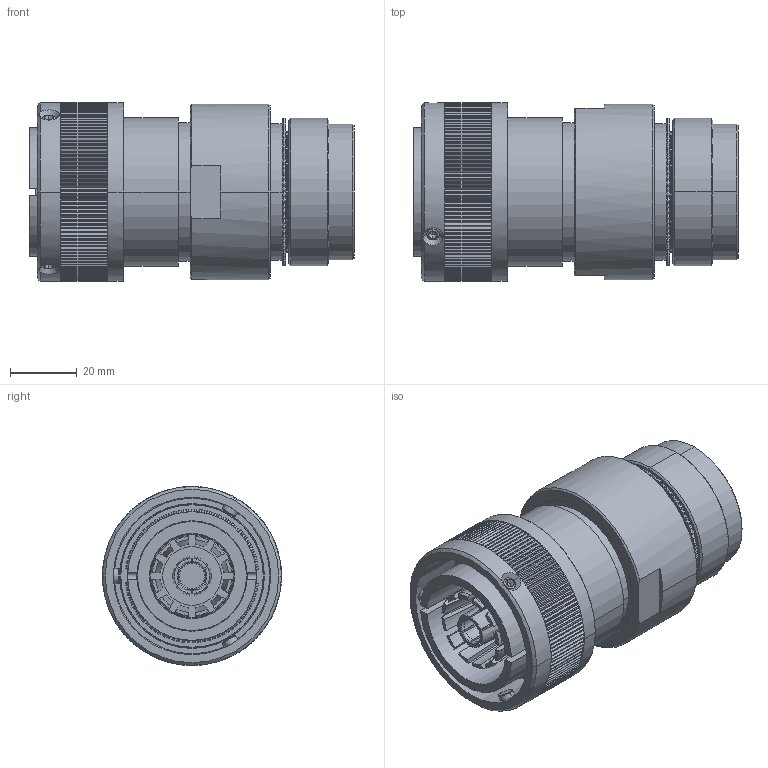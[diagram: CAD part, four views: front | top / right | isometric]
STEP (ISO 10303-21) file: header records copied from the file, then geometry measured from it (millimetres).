
FILE_DESCRIPTION((''),'2;1');
FILE_NAME('GCE3106E28M150S-B-T14','2024-07-12T16:05:02',('paultorloting'),('NET AG system integration'),'CREO PARAMETRIC BY PTC INC, 2021404','CREO PARAMETRIC BY PTC INC, 2021404','');
FILE_SCHEMA(('AUTOMOTIVE_DESIGN { 1 0 10303 214 1 1 1 1 }'));
Products named in the file (1): GCE3106E28M150S-B-T14
Bounding box: 96.9 x 53.5 x 53.5 mm (x, y, z)
Volume: 148816.1 mm3; surface area: 40808.9 mm2
Topology: 1 solids, 1 shells, 2842 faces, 7257 edges, 4434 vertices
Faces by surface type: plane 1397, bspline 1114, cylinder 177, cone 102, torus 52
Entity records: 129144 total; most frequent: CARTESIAN_POINT 58290, ORIENTED_EDGE 14502, DIRECTION 8810, EDGE_CURVE 7251, VERTEX_POINT 4434, VECTOR 3707, LINE 3707, EDGE_LOOP 3179
